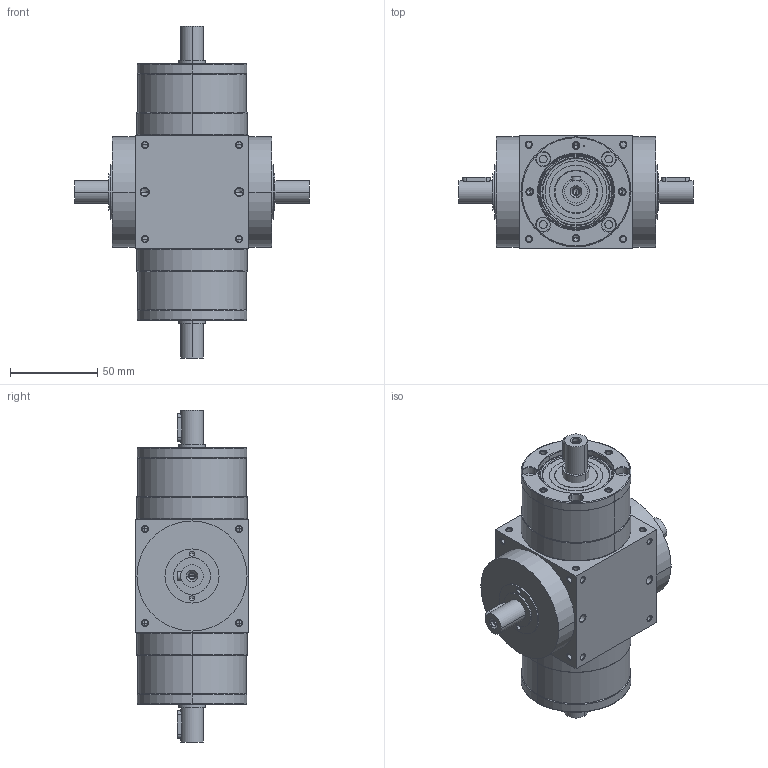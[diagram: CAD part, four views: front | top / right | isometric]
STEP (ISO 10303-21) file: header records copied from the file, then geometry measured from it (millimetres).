
FILE_DESCRIPTION((''),'2;1');
FILE_NAME('AT0654M-1_ASM','2010-02-09T',('d00080'),(''),'PRO/ENGINEER BY PARAMETRIC TECHNOLOGY CORPORATION, 2008170','PRO/ENGINEER BY PARAMETRIC TECHNOLOGY CORPORATION, 2008170','');
FILE_SCHEMA(('CONFIG_CONTROL_DESIGN'));
Length unit declared in the file: millimetre
Products named in the file (4): AT4M-HOUSING-1-2; P1801200001; 22400071002; AT0654M-1_ASM
Assembly tree (5 placements, depth 2):
  AT0654M-1_ASM
    AT4M-HOUSING-1-2
    P1801200001  x2
    22400071002  x2
Bounding box: 134 x 65 x 190 mm (x, y, z)
Volume: 530618.6 mm3; surface area: 95206.6 mm2
Topology: 7 solids, 43 shells, 796 faces, 1908 edges, 1128 vertices
Faces by surface type: cylinder 348, cone 272, plane 108, torus 68
Entity records: 17986 total; most frequent: CARTESIAN_POINT 3795, DIRECTION 3176, ORIENTED_EDGE 2692, EDGE_CURVE 1410, AXIS2_PLACEMENT_3D 1328, VERTEX_POINT 883, CIRCLE 714, EDGE_LOOP 711
